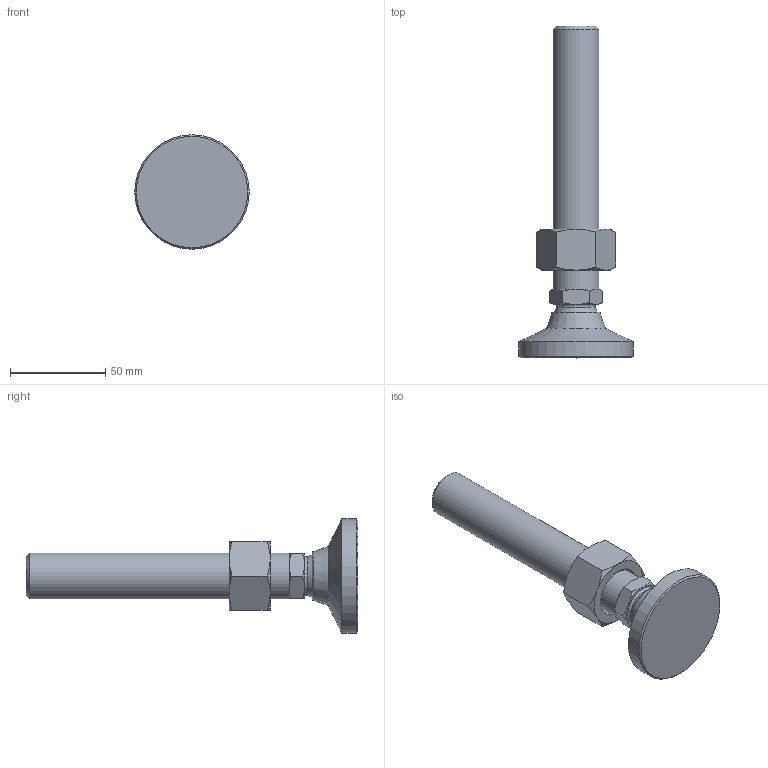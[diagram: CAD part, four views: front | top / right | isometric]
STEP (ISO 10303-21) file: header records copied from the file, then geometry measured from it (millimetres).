
FILE_DESCRIPTION( ( 'STEP AP214' ), ' ' );
FILE_NAME( 'O:/ganter_2015/teil_2/2_5/gn343_2/gn343_2_os/Levelling foot with threaded stud GN 343.2-60-M24-138-OS-(0).stp', '2015-10-26T09:09:04', ( '' ), ( '' ), ' ', 'PARTsolutions', ' ' );
FILE_SCHEMA( ( 'AUTOMOTIVE_DESIGN { 1 0 10303 214 1 1 1 1 }' ) );
Length unit declared in the file: millimetre
Products named in the file (4): Levelling foot with threaded stud GN 343.2-60-M24-138-OS-(0); _Levelling foot with threaded stud GN 343.2-60-M24-138-OS-(0)_foot; _Levelling foot with threaded stud GN 343.2-60-M24-138-OS-(0)_screw; _Stainless Steel-Levelling feet GN 343.2-60-M24-138-OS-(0)_nut
Assembly tree (3 placements, depth 2):
  Levelling foot with threaded stud GN 343.2-60-M24-138-OS-(0)
    _Levelling foot with threaded stud GN 343.2-60-M24-138-OS-(0)_foot
    _Levelling foot with threaded stud GN 343.2-60-M24-138-OS-(0)_screw
    _Stainless Steel-Levelling feet GN 343.2-60-M24-138-OS-(0)_nut
Bounding box: 60 x 174 x 60 mm (x, y, z)
Volume: 125065.7 mm3; surface area: 27029.7 mm2
Topology: 3 solids, 3 shells, 55 faces, 116 edges, 67 vertices
Faces by surface type: cone 30, plane 18, cylinder 3, torus 2, sphere 2
Full cylindrical faces by diameter (mm): 20.752 x1, 24 x1, 60 x1
Entity records: 2078 total; most frequent: CARTESIAN_POINT 535, DIRECTION 208, ORIENTED_EDGE 198, EDGE_CURVE 99, AXIS2_PLACEMENT_3D 98, EDGE_LOOP 70, VERTEX_POINT 65, FACE_OUTER_BOUND 60
